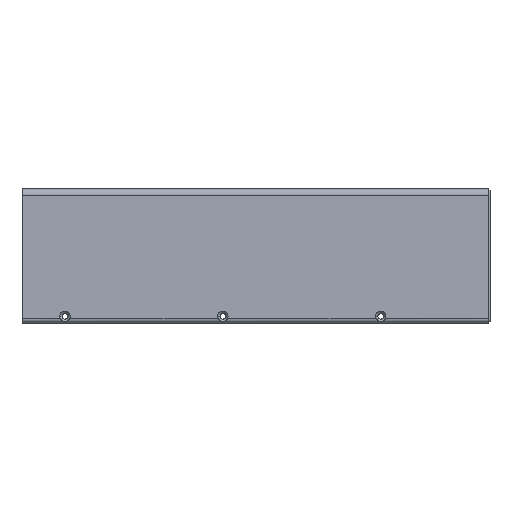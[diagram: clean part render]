
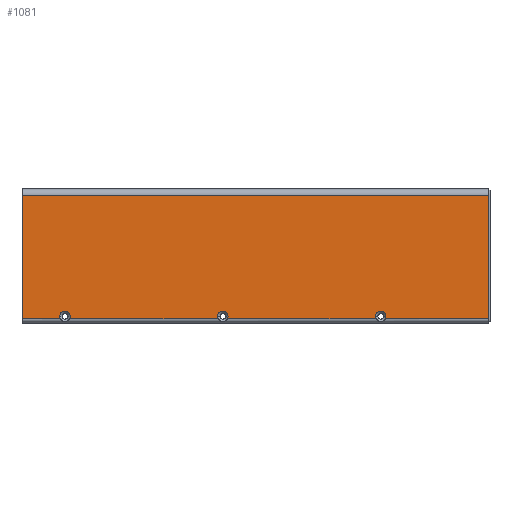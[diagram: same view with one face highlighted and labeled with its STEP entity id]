
A CAD part, top view. The second image highlights one B-rep face of the part: STEP entity #1081.
In plain terms, the highlighted planar face has unit normal (0, 0, 1).
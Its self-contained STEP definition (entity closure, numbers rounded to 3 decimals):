
#5 = ORIENTED_EDGE ( 'NONE', *, *, #784, .T. ) ;
#16 = AXIS2_PLACEMENT_3D ( 'NONE', #2111, #354, #1830 ) ;
#29 = CARTESIAN_POINT ( 'NONE',  ( 74.25, 24.5, 1.5 ) ) ;
#59 = EDGE_CURVE ( 'NONE', #1536, #2443, #1581, .T. ) ;
#92 = CARTESIAN_POINT ( 'NONE',  ( 135., 24.5, 1.5 ) ) ;
#117 = VERTEX_POINT ( 'NONE', #3119 ) ;
#154 = ORIENTED_EDGE ( 'NONE', *, *, #450, .F. ) ;
#169 = AXIS2_PLACEMENT_3D ( 'NONE', #1695, #3370, #2377 ) ;
#224 = DIRECTION ( 'NONE',  ( 0., 0., 1. ) ) ;
#234 = CARTESIAN_POINT ( 'NONE',  ( 138.732, 23.5, 1.5 ) ) ;
#287 = EDGE_LOOP ( 'NONE', ( #980, #1641, #2396, #415, #1478, #2200, #899, #1552, #5, #1287, #642, #2752, #723, #2852, #154, #1443 ) ) ;
#296 = EDGE_CURVE ( 'NONE', #1717, #841, #2015, .T. ) ;
#321 = CIRCLE ( 'NONE', #715, 2. ) ;
#354 = DIRECTION ( 'NONE',  ( 0., 0., 1. ) ) ;
#390 = LINE ( 'NONE', #1914, #840 ) ;
#415 = ORIENTED_EDGE ( 'NONE', *, *, #2483, .T. ) ;
#450 = EDGE_CURVE ( 'NONE', #1565, #1634, #3253, .T. ) ;
#453 = DIRECTION ( 'NONE',  ( 1., 0., 0. ) ) ;
#468 = CARTESIAN_POINT ( 'NONE',  ( -1., 22., 1.5 ) ) ;
#487 = DIRECTION ( 'NONE',  ( 0., 0., 1. ) ) ;
#513 = PLANE ( 'NONE',  #2434 ) ;
#584 = CIRCLE ( 'NONE', #2671, 2. ) ;
#586 = CARTESIAN_POINT ( 'NONE',  ( -1., 23.5, 1.5 ) ) ;
#642 = ORIENTED_EDGE ( 'NONE', *, *, #3380, .F. ) ;
#648 = CARTESIAN_POINT ( 'NONE',  ( 152., 23.5, 1.5 ) ) ;
#687 = DIRECTION ( 'NONE',  ( 0., 0., 1. ) ) ;
#703 = CARTESIAN_POINT ( 'NONE',  ( -1., 71., 1.5 ) ) ;
#715 = AXIS2_PLACEMENT_3D ( 'NONE', #2754, #914, #2795 ) ;
#723 = ORIENTED_EDGE ( 'NONE', *, *, #296, .T. ) ;
#736 = CARTESIAN_POINT ( 'NONE',  ( 137., 24.5, 1.5 ) ) ;
#742 = DIRECTION ( 'NONE',  ( 1., 0., 0. ) ) ;
#763 = VECTOR ( 'NONE', #2158, 1000. ) ;
#784 = EDGE_CURVE ( 'NONE', #2901, #2443, #2825, .T. ) ;
#809 = CARTESIAN_POINT ( 'NONE',  ( 76.25, 24.5, 1.5 ) ) ;
#815 = CARTESIAN_POINT ( 'NONE',  ( 13.5, 24.5, 1.5 ) ) ;
#824 = DIRECTION ( 'NONE',  ( 0., 0., 1. ) ) ;
#840 = VECTOR ( 'NONE', #1647, 1000. ) ;
#841 = VERTEX_POINT ( 'NONE', #2480 ) ;
#899 = ORIENTED_EDGE ( 'NONE', *, *, #3376, .F. ) ;
#914 = DIRECTION ( 'NONE',  ( 0., 0., 1. ) ) ;
#930 = CARTESIAN_POINT ( 'NONE',  ( 76.25, 24.5, 1.5 ) ) ;
#979 = DIRECTION ( 'NONE',  ( 1., 0., 0. ) ) ;
#980 = ORIENTED_EDGE ( 'NONE', *, *, #1373, .T. ) ;
#1038 = AXIS2_PLACEMENT_3D ( 'NONE', #736, #2589, #979 ) ;
#1054 = AXIS2_PLACEMENT_3D ( 'NONE', #1691, #224, #1424 ) ;
#1081 = ADVANCED_FACE ( 'NONE', ( #2035 ), #513, .T. ) ;
#1114 = CARTESIAN_POINT ( 'NONE',  ( 152., 71., 1.5 ) ) ;
#1171 = CARTESIAN_POINT ( 'NONE',  ( 178.5, 0., 1.5 ) ) ;
#1224 = AXIS2_PLACEMENT_3D ( 'NONE', #930, #687, #453 ) ;
#1239 = CARTESIAN_POINT ( 'NONE',  ( 13.768, 23.5, 1.5 ) ) ;
#1244 = CARTESIAN_POINT ( 'NONE',  ( 152., 23.5, 1.5 ) ) ;
#1287 = ORIENTED_EDGE ( 'NONE', *, *, #59, .F. ) ;
#1310 = DIRECTION ( 'NONE',  ( 1., 0., 0. ) ) ;
#1373 = EDGE_CURVE ( 'NONE', #2710, #1882, #390, .T. ) ;
#1376 = VECTOR ( 'NONE', #2221, 1000. ) ;
#1413 = AXIS2_PLACEMENT_3D ( 'NONE', #2280, #487, #1990 ) ;
#1424 = DIRECTION ( 'NONE',  ( 1., 0., 0. ) ) ;
#1443 = ORIENTED_EDGE ( 'NONE', *, *, #2662, .F. ) ;
#1452 = LINE ( 'NONE', #3349, #1376 ) ;
#1459 = VECTOR ( 'NONE', #2510, 1000. ) ;
#1478 = ORIENTED_EDGE ( 'NONE', *, *, #3393, .T. ) ;
#1487 = CARTESIAN_POINT ( 'NONE',  ( 139., 24.5, 1.5 ) ) ;
#1499 = LINE ( 'NONE', #468, #2913 ) ;
#1532 = VECTOR ( 'NONE', #1963, 1000. ) ;
#1536 = VERTEX_POINT ( 'NONE', #29 ) ;
#1549 = AXIS2_PLACEMENT_3D ( 'NONE', #2696, #824, #1310 ) ;
#1552 = ORIENTED_EDGE ( 'NONE', *, *, #2462, .F. ) ;
#1565 = VERTEX_POINT ( 'NONE', #1487 ) ;
#1581 = CIRCLE ( 'NONE', #1413, 2. ) ;
#1612 = LINE ( 'NONE', #1171, #1532 ) ;
#1634 = VERTEX_POINT ( 'NONE', #92 ) ;
#1641 = ORIENTED_EDGE ( 'NONE', *, *, #3388, .T. ) ;
#1644 = VERTEX_POINT ( 'NONE', #815 ) ;
#1647 = DIRECTION ( 'NONE',  ( 1., 0., 0. ) ) ;
#1691 = CARTESIAN_POINT ( 'NONE',  ( 15.5, 24.5, 1.5 ) ) ;
#1695 = CARTESIAN_POINT ( 'NONE',  ( 15.5, 24.5, 1.5 ) ) ;
#1703 = CIRCLE ( 'NONE', #1224, 2. ) ;
#1708 = CIRCLE ( 'NONE', #1549, 2. ) ;
#1717 = VERTEX_POINT ( 'NONE', #2432 ) ;
#1750 = CIRCLE ( 'NONE', #1054, 2. ) ;
#1764 = CARTESIAN_POINT ( 'NONE',  ( 74.518, 23.5, 1.5 ) ) ;
#1830 = DIRECTION ( 'NONE',  ( 1., 0., 0. ) ) ;
#1882 = VERTEX_POINT ( 'NONE', #3025 ) ;
#1898 = DIRECTION ( 'NONE',  ( 0., -1., 0. ) ) ;
#1914 = CARTESIAN_POINT ( 'NONE',  ( 152., 23.5, 1.5 ) ) ;
#1963 = DIRECTION ( 'NONE',  ( 0., 1., 0. ) ) ;
#1990 = DIRECTION ( 'NONE',  ( 1., 0., 0. ) ) ;
#2015 = LINE ( 'NONE', #648, #2658 ) ;
#2035 = FACE_OUTER_BOUND ( 'NONE', #287, .T. ) ;
#2111 = CARTESIAN_POINT ( 'NONE',  ( 137., 24.5, 1.5 ) ) ;
#2158 = DIRECTION ( 'NONE',  ( -1., 0., 0. ) ) ;
#2161 = CARTESIAN_POINT ( 'NONE',  ( 17.232, 23.5, 1.5 ) ) ;
#2200 = ORIENTED_EDGE ( 'NONE', *, *, #3271, .F. ) ;
#2213 = CARTESIAN_POINT ( 'NONE',  ( 78.25, 24.5, 1.5 ) ) ;
#2221 = DIRECTION ( 'NONE',  ( 1., 0., 0. ) ) ;
#2280 = CARTESIAN_POINT ( 'NONE',  ( 76.25, 24.5, 1.5 ) ) ;
#2281 = DIRECTION ( 'NONE',  ( 0., 0., 1. ) ) ;
#2377 = DIRECTION ( 'NONE',  ( 1., 0., 0. ) ) ;
#2396 = ORIENTED_EDGE ( 'NONE', *, *, #2819, .T. ) ;
#2432 = CARTESIAN_POINT ( 'NONE',  ( 77.982, 23.5, 1.5 ) ) ;
#2434 = AXIS2_PLACEMENT_3D ( 'NONE', #3160, #2597, #742 ) ;
#2443 = VERTEX_POINT ( 'NONE', #1764 ) ;
#2451 = VERTEX_POINT ( 'NONE', #1239 ) ;
#2462 = EDGE_CURVE ( 'NONE', #2901, #3112, #3089, .T. ) ;
#2479 = VERTEX_POINT ( 'NONE', #703 ) ;
#2480 = CARTESIAN_POINT ( 'NONE',  ( 135.268, 23.5, 1.5 ) ) ;
#2483 = EDGE_CURVE ( 'NONE', #2479, #3344, #1499, .T. ) ;
#2485 = DIRECTION ( 'NONE',  ( 1., 0., 0. ) ) ;
#2510 = DIRECTION ( 'NONE',  ( 1., 0., 0. ) ) ;
#2564 = EDGE_CURVE ( 'NONE', #1717, #2890, #584, .T. ) ;
#2589 = DIRECTION ( 'NONE',  ( 0., 0., 1. ) ) ;
#2597 = DIRECTION ( 'NONE',  ( 0., 0., 1. ) ) ;
#2645 = EDGE_CURVE ( 'NONE', #1634, #841, #2948, .T. ) ;
#2646 = CARTESIAN_POINT ( 'NONE',  ( 17.5, 24.5, 1.5 ) ) ;
#2658 = VECTOR ( 'NONE', #2485, 1000. ) ;
#2662 = EDGE_CURVE ( 'NONE', #2710, #1565, #321, .T. ) ;
#2671 = AXIS2_PLACEMENT_3D ( 'NONE', #809, #2281, #2673 ) ;
#2673 = DIRECTION ( 'NONE',  ( 1., 0., 0. ) ) ;
#2696 = CARTESIAN_POINT ( 'NONE',  ( 15.5, 24.5, 1.5 ) ) ;
#2710 = VERTEX_POINT ( 'NONE', #234 ) ;
#2752 = ORIENTED_EDGE ( 'NONE', *, *, #2564, .F. ) ;
#2754 = CARTESIAN_POINT ( 'NONE',  ( 137., 24.5, 1.5 ) ) ;
#2795 = DIRECTION ( 'NONE',  ( 1., 0., 0. ) ) ;
#2819 = EDGE_CURVE ( 'NONE', #117, #2479, #2920, .T. ) ;
#2825 = LINE ( 'NONE', #1244, #1459 ) ;
#2852 = ORIENTED_EDGE ( 'NONE', *, *, #2645, .F. ) ;
#2890 = VERTEX_POINT ( 'NONE', #2213 ) ;
#2901 = VERTEX_POINT ( 'NONE', #2161 ) ;
#2913 = VECTOR ( 'NONE', #1898, 1000. ) ;
#2920 = LINE ( 'NONE', #1114, #763 ) ;
#2948 = CIRCLE ( 'NONE', #1038, 2. ) ;
#3025 = CARTESIAN_POINT ( 'NONE',  ( 178.5, 23.5, 1.5 ) ) ;
#3089 = CIRCLE ( 'NONE', #169, 2. ) ;
#3112 = VERTEX_POINT ( 'NONE', #2646 ) ;
#3119 = CARTESIAN_POINT ( 'NONE',  ( 178.5, 71., 1.5 ) ) ;
#3160 = CARTESIAN_POINT ( 'NONE',  ( 0., 0., 1.5 ) ) ;
#3253 = CIRCLE ( 'NONE', #16, 2. ) ;
#3271 = EDGE_CURVE ( 'NONE', #1644, #2451, #1708, .T. ) ;
#3344 = VERTEX_POINT ( 'NONE', #586 ) ;
#3349 = CARTESIAN_POINT ( 'NONE',  ( 152., 23.5, 1.5 ) ) ;
#3370 = DIRECTION ( 'NONE',  ( 0., 0., 1. ) ) ;
#3376 = EDGE_CURVE ( 'NONE', #3112, #1644, #1750, .T. ) ;
#3380 = EDGE_CURVE ( 'NONE', #2890, #1536, #1703, .T. ) ;
#3388 = EDGE_CURVE ( 'NONE', #1882, #117, #1612, .T. ) ;
#3393 = EDGE_CURVE ( 'NONE', #3344, #2451, #1452, .T. ) ;
